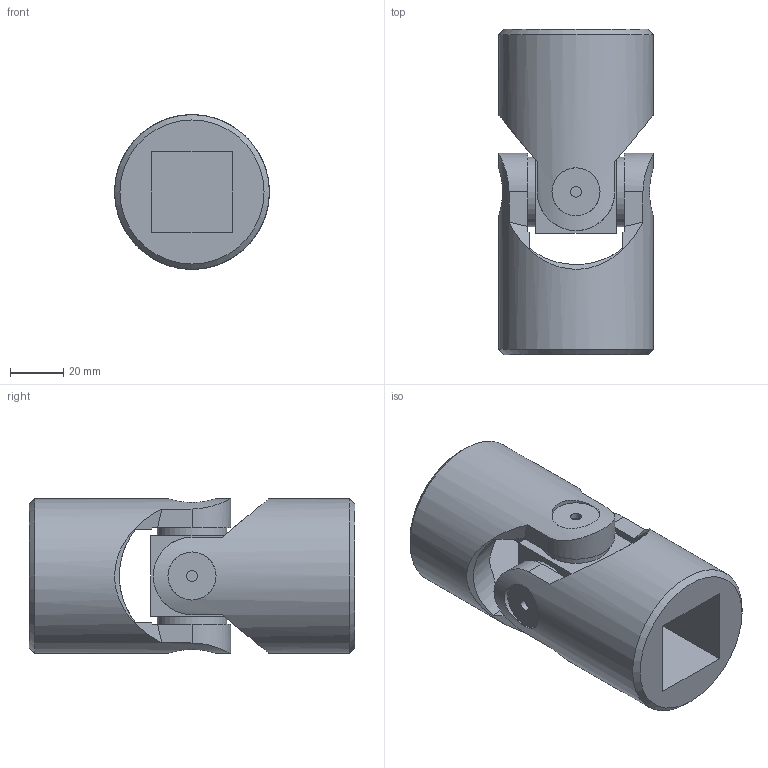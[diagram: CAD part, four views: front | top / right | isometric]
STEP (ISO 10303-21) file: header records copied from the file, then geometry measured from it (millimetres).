
FILE_DESCRIPTION(/* description */ (''),/* implementation_level */ '2;1');
FILE_NAME(/* name */ '\\SRV2016\Societa\Stefano\Disegni 3D\Dis. Clienti\0000Catalogo 3D\01Singoli G-GB\6G-2Q_SG0S302Q.stp',/* time_stamp */ '2021-11-10T11:16:23+01:00',/* author */ ('acquisti'),/* organization */ (''),/* preprocessor_version */ 'ST-DEVELOPER v15.6',/* originating_system */ 'Autodesk Inventor 2015',/* authorisation */ '');
FILE_SCHEMA (('AUTOMOTIVE_DESIGN { 1 0 10303 214 3 1 1 }'));
Length unit declared in the file: millimetre
Products named in the file (3): 6G SFE; 6G MOQ; Assieme1
Assembly tree (3 placements, depth 2):
  Assieme1
    6G SFE
    6G MOQ  x2
Bounding box: 58 x 122 x 58 mm (x, y, z)
Volume: 199140.9 mm3; surface area: 45638.1 mm2
Topology: 3 solids, 3 shells, 90 faces, 228 edges, 154 vertices
Faces by surface type: plane 44, cylinder 26, cone 18, torus 2
Full cylindrical faces by diameter (mm): 4 x4, 18 x4, 26 x4, 58 x2
Entity records: 1753 total; most frequent: CARTESIAN_POINT 549, ORIENTED_EDGE 230, DIRECTION 228, EDGE_CURVE 115, AXIS2_PLACEMENT_3D 94, VERTEX_POINT 85, EDGE_LOOP 72, FACE_OUTER_BOUND 52
